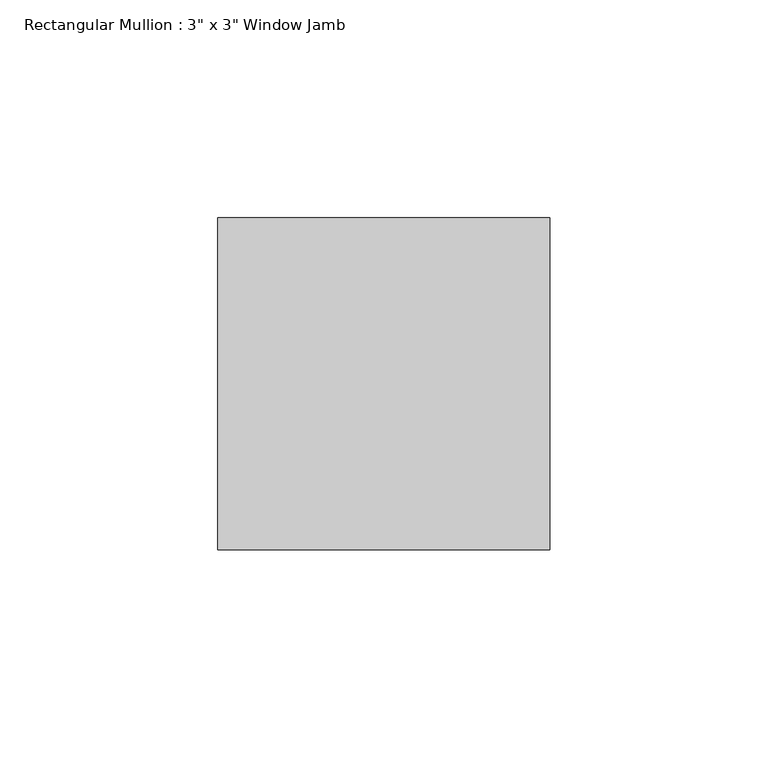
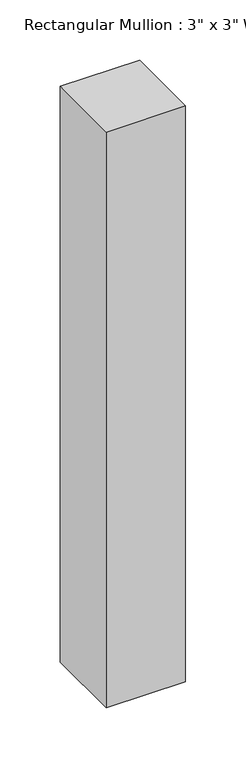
"""IFC4 building model written with IfcOpenShell, lengths in millimetres: member geometry."""

from ifc_helpers import new_model, si_unit, frame, origin, place, context, project, spatial, polyline, outline, extrude, source, transform, mapped, element, save


def member_a6d649dc(model_context):
    return source(origin(), model_context, "Body", "SweptSolid", [
        extrude(outline(polyline([(0.0, 25.4), (0.0, -50.8), (-76.2, -50.8), (-76.2, 25.4), (0.0, 25.4)])), frame((0.0, 0.0, -584.2), z_axis=(0.0, 0.0, 1.0), x_axis=(1.0, 0.0, 0.0)), (0.0, 0.0, 1.0), 584.2),
    ])


if __name__ == "__main__":
    model = new_model("IFC4")
    model_context = context("Model", 3, world=origin())
    ifc_project = project(units=[si_unit("LENGTHUNIT", "METRE", prefix="MILLI")], contexts=[model_context])
    site = spatial("IfcSite", under=ifc_project)
    building = spatial("IfcBuilding", under=site)
    placement = place(None, origin())
    member_shape = member_a6d649dc(model_context)
    element("IfcMember", 1, ObjectType="Rectangular Mullion : 3\" x 3\" Window Jamb", at=placement, inside=building, context=model_context, shape_type="MappedRepresentation", body=[
        mapped(member_shape, transform((0.0, 0.0, 0.0), x_axis=(1.0, 0.0, 0.0), y_axis=(0.0, 1.0, 0.0), z_axis=(0.0, 0.0, 1.0))),
    ])
    save(model, "model.ifc")
